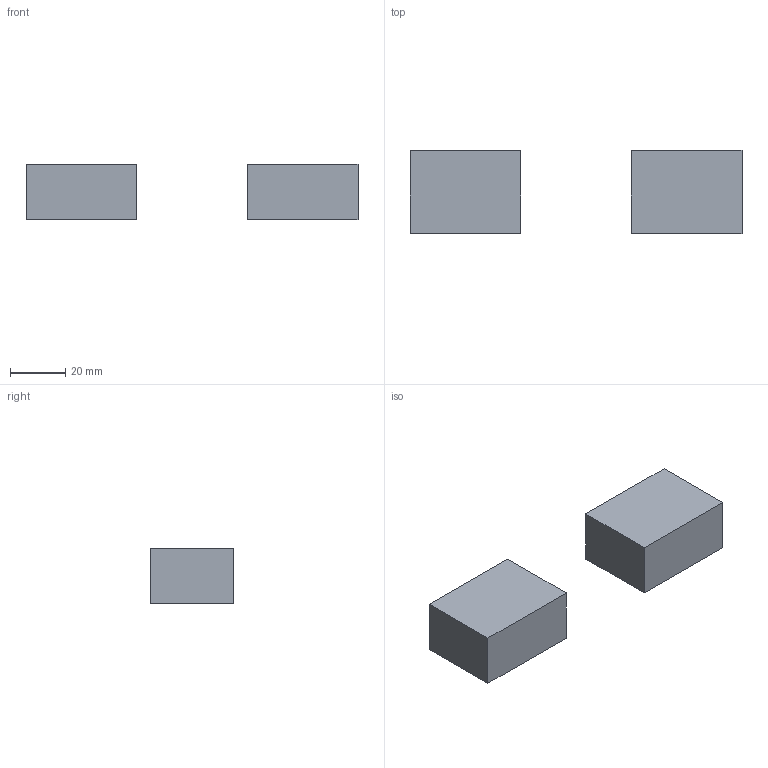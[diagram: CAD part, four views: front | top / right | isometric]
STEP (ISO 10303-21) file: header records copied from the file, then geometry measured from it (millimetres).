
FILE_DESCRIPTION(('Open CASCADE Model'),'2;1');
FILE_NAME('Open CASCADE Shape Model','2026-03-24T09:37:59',('Author'),( 'Open CASCADE'),'Open CASCADE STEP processor 7.8','Open CASCADE 7.8' ,'Unknown');
FILE_SCHEMA(('AUTOMOTIVE_DESIGN { 1 0 10303 214 1 1 1 1 }'));
Length unit declared in the file: millimetre
Products named in the file (3): Open CASCADE STEP translator 7.8 7; Open CASCADE STEP translator 7.8 7.1; Open CASCADE STEP translator 7.8 7.2
Assembly tree (2 placements, depth 2):
  Open CASCADE STEP translator 7.8 7
    Open CASCADE STEP translator 7.8 7.1
    Open CASCADE STEP translator 7.8 7.2
Bounding box: 120 x 30 x 20 mm (x, y, z)
Volume: 48000 mm3; surface area: 10400 mm2
Topology: 2 solids, 2 shells, 12 faces, 24 edges, 16 vertices
Faces by surface type: plane 12
Entity records: 664 total; most frequent: CARTESIAN_POINT 103, DIRECTION 102, LINE 72, VECTOR 72, ORIENTED_EDGE 48, PCURVE 48, DEFINITIONAL_REPRESENTATION 48, EDGE_CURVE 24
